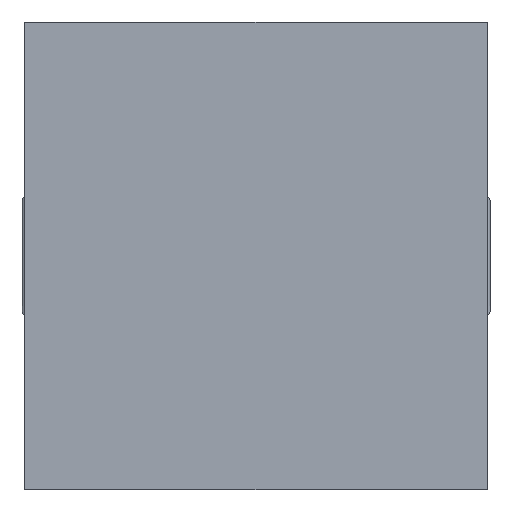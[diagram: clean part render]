
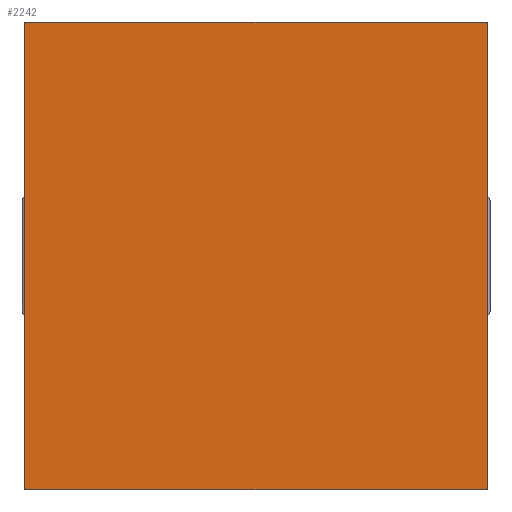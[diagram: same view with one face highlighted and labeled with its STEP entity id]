
A CAD part, front view. The second image highlights one B-rep face of the part: STEP entity #2242.
In plain terms, the highlighted planar face has unit normal (0, -1, 0).
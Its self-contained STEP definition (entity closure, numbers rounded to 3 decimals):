
#33 = EDGE_LOOP ( 'NONE', ( #1755, #3417, #2797, #2714 ) ) ;
#122 = EDGE_CURVE ( 'NONE', #3476, #1681, #1646, .T. ) ;
#159 = FACE_OUTER_BOUND ( 'NONE', #33, .T. ) ;
#213 = CARTESIAN_POINT ( 'NONE',  ( 0., 0., 25.5 ) ) ;
#249 = LINE ( 'NONE', #259, #882 ) ;
#259 = CARTESIAN_POINT ( 'NONE',  ( 25.2, 0., 25.5 ) ) ;
#264 = VECTOR ( 'NONE', #2249, 1000. ) ;
#315 = EDGE_CURVE ( 'NONE', #1092, #607, #938, .T. ) ;
#584 = CARTESIAN_POINT ( 'NONE',  ( 0., 0., 0. ) ) ;
#607 = VERTEX_POINT ( 'NONE', #3456 ) ;
#667 = AXIS2_PLACEMENT_3D ( 'NONE', #2690, #994, #2703 ) ;
#789 = EDGE_CURVE ( 'NONE', #3476, #1092, #2651, .T. ) ;
#882 = VECTOR ( 'NONE', #1397, 1000. ) ;
#938 = LINE ( 'NONE', #3608, #264 ) ;
#994 = DIRECTION ( 'NONE',  ( 0., 1., 0. ) ) ;
#1092 = VERTEX_POINT ( 'NONE', #584 ) ;
#1397 = DIRECTION ( 'NONE',  ( 0., 0., -1. ) ) ;
#1510 = CARTESIAN_POINT ( 'NONE',  ( 25.2, 0., 25.5 ) ) ;
#1646 = LINE ( 'NONE', #1841, #2614 ) ;
#1681 = VERTEX_POINT ( 'NONE', #1510 ) ;
#1755 = ORIENTED_EDGE ( 'NONE', *, *, #315, .T. ) ;
#1816 = DIRECTION ( 'NONE',  ( 1., 0., 0. ) ) ;
#1841 = CARTESIAN_POINT ( 'NONE',  ( 0., 0., 25.5 ) ) ;
#1856 = CARTESIAN_POINT ( 'NONE',  ( 0., 0., 25.5 ) ) ;
#2242 = ADVANCED_FACE ( 'NONE', ( #159 ), #3512, .F. ) ;
#2249 = DIRECTION ( 'NONE',  ( 1., 0., 0. ) ) ;
#2557 = EDGE_CURVE ( 'NONE', #1681, #607, #249, .T. ) ;
#2614 = VECTOR ( 'NONE', #1816, 1000. ) ;
#2651 = LINE ( 'NONE', #1856, #3037 ) ;
#2690 = CARTESIAN_POINT ( 'NONE',  ( 0., 0., 25.5 ) ) ;
#2703 = DIRECTION ( 'NONE',  ( 0., 0., 1. ) ) ;
#2714 = ORIENTED_EDGE ( 'NONE', *, *, #789, .T. ) ;
#2797 = ORIENTED_EDGE ( 'NONE', *, *, #122, .F. ) ;
#3037 = VECTOR ( 'NONE', #3500, 1000. ) ;
#3417 = ORIENTED_EDGE ( 'NONE', *, *, #2557, .F. ) ;
#3456 = CARTESIAN_POINT ( 'NONE',  ( 25.2, 0., 0. ) ) ;
#3476 = VERTEX_POINT ( 'NONE', #213 ) ;
#3500 = DIRECTION ( 'NONE',  ( 0., 0., -1. ) ) ;
#3512 = PLANE ( 'NONE',  #667 ) ;
#3608 = CARTESIAN_POINT ( 'NONE',  ( 0., 0., 0. ) ) ;
